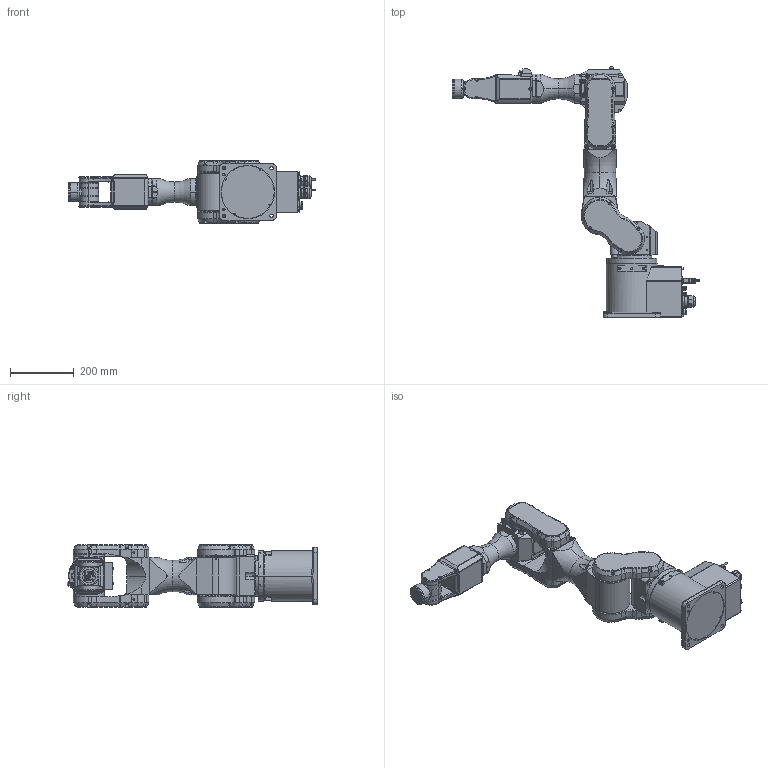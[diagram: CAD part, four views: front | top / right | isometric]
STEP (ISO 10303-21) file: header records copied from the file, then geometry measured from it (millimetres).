
FILE_DESCRIPTION( ( '' ), '1' );
FILE_NAME( '//expscmdclustefs.cadenas.external/client_exchange/iodir/jobs/output/wkb56950081_no0/STEP/C4_A901CR_2_14b.stp', '2013-04-17T12:30:57', ( '' ), ( '' ), ' ', ' ', ' ' );
FILE_SCHEMA( ( 'automotive_design' ) );
Length unit declared in the file: millimetre
Products named in the file (7): 1; 2; 3; 4; 5; 6; 7
Bounding box: 779 x 790.46 x 198 mm (x, y, z)
Volume: 18289732.2 mm3; surface area: 1027024.4 mm2
Topology: 7 solids, 9 shells, 2623 faces, 6703 edges, 4225 vertices
Faces by surface type: plane 1166, cylinder 940, cone 292, torus 223, sphere 2
Entity records: 158618 total; most frequent: CARTESIAN_POINT 19243, DIRECTION 14006, STYLED_ITEM 13419, PRESENTATION_STYLE_ASSIGNMENT 13419, COLOUR_RGB 13419, ORIENTED_EDGE 13128, EDGE_CURVE 6564, CURVE_STYLE 6564
